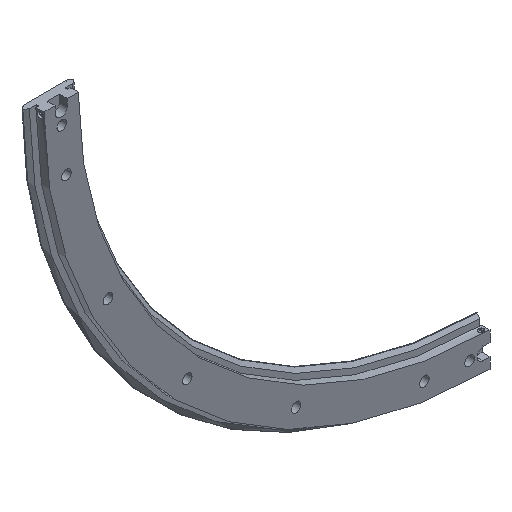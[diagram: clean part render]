
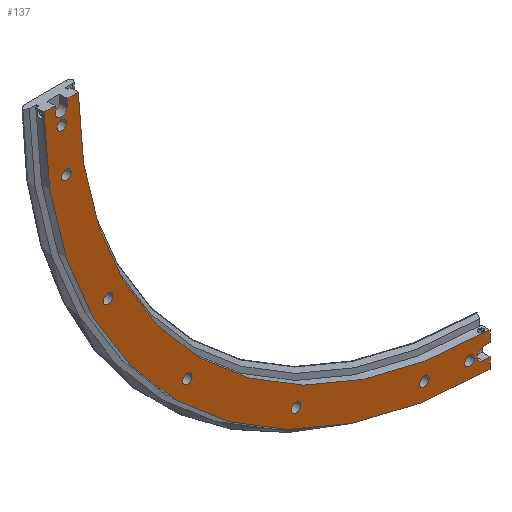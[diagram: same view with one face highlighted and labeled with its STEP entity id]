
A CAD part, isometric view. The second image highlights one B-rep face of the part: STEP entity #137.
In plain terms, the highlighted planar face has unit normal (0, -1, 0).
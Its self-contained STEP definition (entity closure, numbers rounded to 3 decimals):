
#137 = ADVANCED_FACE( '', ( #306, #307, #308, #309, #310, #311, #312, #313 ), #314, .T. );
#306 = FACE_BOUND( '', #519, .T. );
#307 = FACE_BOUND( '', #520, .T. );
#308 = FACE_BOUND( '', #521, .T. );
#309 = FACE_BOUND( '', #522, .T. );
#310 = FACE_BOUND( '', #523, .T. );
#311 = FACE_BOUND( '', #524, .T. );
#312 = FACE_BOUND( '', #525, .T. );
#313 = FACE_OUTER_BOUND( '', #526, .T. );
#314 = PLANE( '', #527 );
#519 = EDGE_LOOP( '', ( #1054 ) );
#520 = EDGE_LOOP( '', ( #1055 ) );
#521 = EDGE_LOOP( '', ( #1056 ) );
#522 = EDGE_LOOP( '', ( #1057 ) );
#523 = EDGE_LOOP( '', ( #1058 ) );
#524 = EDGE_LOOP( '', ( #1059 ) );
#525 = EDGE_LOOP( '', ( #1060 ) );
#526 = EDGE_LOOP( '', ( #1061, #1062, #1063, #1064, #1065, #1066, #1067, #1068, #1069, #1070, #1071, #1072 ) );
#527 = AXIS2_PLACEMENT_3D( '', #1073, #1074, #1075 );
#1054 = ORIENTED_EDGE( '', *, *, #1358, .F. );
#1055 = ORIENTED_EDGE( '', *, *, #1359, .F. );
#1056 = ORIENTED_EDGE( '', *, *, #1360, .F. );
#1057 = ORIENTED_EDGE( '', *, *, #1361, .F. );
#1058 = ORIENTED_EDGE( '', *, *, #1362, .F. );
#1059 = ORIENTED_EDGE( '', *, *, #1256, .F. );
#1060 = ORIENTED_EDGE( '', *, *, #1260, .F. );
#1061 = ORIENTED_EDGE( '', *, *, #1241, .T. );
#1062 = ORIENTED_EDGE( '', *, *, #1246, .T. );
#1063 = ORIENTED_EDGE( '', *, *, #1269, .T. );
#1064 = ORIENTED_EDGE( '', *, *, #1265, .T. );
#1065 = ORIENTED_EDGE( '', *, *, #1196, .T. );
#1066 = ORIENTED_EDGE( '', *, *, #1255, .T. );
#1067 = ORIENTED_EDGE( '', *, *, #1253, .T. );
#1068 = ORIENTED_EDGE( '', *, *, #1251, .T. );
#1069 = ORIENTED_EDGE( '', *, *, #1212, .T. );
#1070 = ORIENTED_EDGE( '', *, *, #1342, .F. );
#1071 = ORIENTED_EDGE( '', *, *, #1270, .T. );
#1072 = ORIENTED_EDGE( '', *, *, #1244, .T. );
#1073 = CARTESIAN_POINT( '', ( -608.25, 0., 0. ) );
#1074 = DIRECTION( '', ( 0., -1., 0. ) );
#1075 = DIRECTION( '', ( 0., 0., -1. ) );
#1196 = EDGE_CURVE( '', #1379, #1377, #1380, .T. );
#1212 = EDGE_CURVE( '', #1411, #1409, #1412, .T. );
#1241 = EDGE_CURVE( '', #1461, #1462, #1463, .T. );
#1244 = EDGE_CURVE( '', #1466, #1461, #1467, .T. );
#1246 = EDGE_CURVE( '', #1462, #1469, #1470, .T. );
#1251 = EDGE_CURVE( '', #1477, #1411, #1478, .T. );
#1253 = EDGE_CURVE( '', #1480, #1477, #1481, .T. );
#1255 = EDGE_CURVE( '', #1377, #1480, #1483, .T. );
#1256 = EDGE_CURVE( '', #1484, #1484, #1485, .T. );
#1260 = EDGE_CURVE( '', #1492, #1492, #1493, .T. );
#1265 = EDGE_CURVE( '', #1502, #1379, #1503, .T. );
#1269 = EDGE_CURVE( '', #1469, #1502, #1509, .T. );
#1270 = EDGE_CURVE( '', #1510, #1466, #1511, .T. );
#1342 = EDGE_CURVE( '', #1510, #1409, #1634, .T. );
#1358 = EDGE_CURVE( '', #1655, #1655, #1656, .T. );
#1359 = EDGE_CURVE( '', #1657, #1657, #1658, .T. );
#1360 = EDGE_CURVE( '', #1659, #1659, #1660, .T. );
#1361 = EDGE_CURVE( '', #1661, #1661, #1662, .T. );
#1362 = EDGE_CURVE( '', #1663, #1663, #1664, .T. );
#1377 = VERTEX_POINT( '', #1690 );
#1379 = VERTEX_POINT( '', #1693 );
#1380 = LINE( '', #1694, #1695 );
#1409 = VERTEX_POINT( '', #1762 );
#1411 = VERTEX_POINT( '', #1765 );
#1412 = LINE( '', #1766, #1767 );
#1461 = VERTEX_POINT( '', #1906 );
#1462 = VERTEX_POINT( '', #1907 );
#1463 = CIRCLE( '', #1908, 9. );
#1466 = VERTEX_POINT( '', #1913 );
#1467 = LINE( '', #1914, #1915 );
#1469 = VERTEX_POINT( '', #1918 );
#1470 = LINE( '', #1919, #1920 );
#1477 = VERTEX_POINT( '', #1930 );
#1478 = LINE( '', #1931, #1932 );
#1480 = VERTEX_POINT( '', #1935 );
#1481 = CIRCLE( '', #1936, 9. );
#1483 = LINE( '', #1939, #1940 );
#1484 = VERTEX_POINT( '', #1941 );
#1485 = CIRCLE( '', #1942, 7. );
#1492 = VERTEX_POINT( '', #1949 );
#1493 = CIRCLE( '', #1950, 7. );
#1502 = VERTEX_POINT( '', #2024 );
#1503 = CIRCLE( '', #2025, 658.75 );
#1509 = LINE( '', #2097, #2098 );
#1510 = VERTEX_POINT( '', #2099 );
#1511 = LINE( '', #2100, #2101 );
#1634 = CIRCLE( '', #2377, 608.25 );
#1655 = VERTEX_POINT( '', #2398 );
#1656 = CIRCLE( '', #2399, 7. );
#1657 = VERTEX_POINT( '', #2400 );
#1658 = CIRCLE( '', #2401, 7. );
#1659 = VERTEX_POINT( '', #2402 );
#1660 = CIRCLE( '', #2403, 7. );
#1661 = VERTEX_POINT( '', #2404 );
#1662 = CIRCLE( '', #2405, 7. );
#1663 = VERTEX_POINT( '', #2406 );
#1664 = CIRCLE( '', #2407, 7. );
#1690 = CARTESIAN_POINT( '', ( -2.5, 0., -642.5 ) );
#1693 = CARTESIAN_POINT( '', ( -2.5, 0., -658.745 ) );
#1694 = CARTESIAN_POINT( '', ( -2.5, 0., -671.87 ) );
#1695 = VECTOR( '', #2432, 1000. );
#1762 = CARTESIAN_POINT( '', ( -2.5, 0., -608.245 ) );
#1765 = CARTESIAN_POINT( '', ( -2.5, 0., -624.5 ) );
#1766 = CARTESIAN_POINT( '', ( -2.5, 0., -671.87 ) );
#1767 = VECTOR( '', #2442, 1000. );
#1906 = CARTESIAN_POINT( '', ( -624.5, 0., -12.5 ) );
#1907 = CARTESIAN_POINT( '', ( -642.5, 0., -12.5 ) );
#1908 = AXIS2_PLACEMENT_3D( '', #2477, #2478, #2479 );
#1913 = CARTESIAN_POINT( '', ( -624.5, 0., -2.5 ) );
#1914 = CARTESIAN_POINT( '', ( -624.5, 0., 0. ) );
#1915 = VECTOR( '', #2482, 1000. );
#1918 = CARTESIAN_POINT( '', ( -642.5, 0., -2.5 ) );
#1919 = CARTESIAN_POINT( '', ( -642.5, 0., -12.5 ) );
#1920 = VECTOR( '', #2484, 1000. );
#1930 = CARTESIAN_POINT( '', ( -12.5, 0., -624.5 ) );
#1931 = CARTESIAN_POINT( '', ( -12.5, 0., -624.5 ) );
#1932 = VECTOR( '', #2491, 1000. );
#1935 = CARTESIAN_POINT( '', ( -12.5, 0., -642.5 ) );
#1936 = AXIS2_PLACEMENT_3D( '', #2493, #2494, #2495 );
#1939 = CARTESIAN_POINT( '', ( 0., 0., -642.5 ) );
#1940 = VECTOR( '', #2497, 1000. );
#1941 = CARTESIAN_POINT( '', ( -625.701, 0., -106.101 ) );
#1942 = AXIS2_PLACEMENT_3D( '', #2498, #2499, #2500 );
#1949 = CARTESIAN_POINT( '', ( -99.101, 0., -632.701 ) );
#1950 = AXIS2_PLACEMENT_3D( '', #2510, #2511, #2512 );
#2024 = CARTESIAN_POINT( '', ( -658.745, 0., -2.5 ) );
#2025 = AXIS2_PLACEMENT_3D( '', #2522, #2523, #2524 );
#2097 = CARTESIAN_POINT( '', ( -2.5, 0., -2.5 ) );
#2098 = VECTOR( '', #2529, 1000. );
#2099 = CARTESIAN_POINT( '', ( -608.245, 0., -2.5 ) );
#2100 = CARTESIAN_POINT( '', ( -2.5, 0., -2.5 ) );
#2101 = VECTOR( '', #2530, 1000. );
#2377 = AXIS2_PLACEMENT_3D( '', #2604, #2605, #2606 );
#2398 = CARTESIAN_POINT( '', ( -632.666, 0., -39.492 ) );
#2399 = AXIS2_PLACEMENT_3D( '', #2652, #2653, #2654 );
#2400 = CARTESIAN_POINT( '', ( -32.492, 0., -639.666 ) );
#2401 = AXIS2_PLACEMENT_3D( '', #2655, #2656, #2657 );
#2402 = CARTESIAN_POINT( '', ( -564.453, 0., -294.603 ) );
#2403 = AXIS2_PLACEMENT_3D( '', #2658, #2659, #2660 );
#2404 = CARTESIAN_POINT( '', ( -447.952, 0., -454.952 ) );
#2405 = AXIS2_PLACEMENT_3D( '', #2661, #2662, #2663 );
#2406 = CARTESIAN_POINT( '', ( -287.603, 0., -571.453 ) );
#2407 = AXIS2_PLACEMENT_3D( '', #2664, #2665, #2666 );
#2432 = DIRECTION( '', ( 0., 0., 1. ) );
#2442 = DIRECTION( '', ( 0., 0., 1. ) );
#2477 = CARTESIAN_POINT( '', ( -633.5, 0., -12.5 ) );
#2478 = DIRECTION( '', ( 0., 1., 0. ) );
#2479 = DIRECTION( '', ( 1., 0., 0. ) );
#2482 = DIRECTION( '', ( 0., 0., -1. ) );
#2484 = DIRECTION( '', ( 0., 0., 1. ) );
#2491 = DIRECTION( '', ( 1., 0., 0. ) );
#2493 = CARTESIAN_POINT( '', ( -12.5, 0., -633.5 ) );
#2494 = DIRECTION( '', ( 0., 1., 0. ) );
#2495 = DIRECTION( '', ( 1., 0., 0. ) );
#2497 = DIRECTION( '', ( -1., 0., 0. ) );
#2498 = CARTESIAN_POINT( '', ( -625.701, 0., -99.101 ) );
#2499 = DIRECTION( '', ( 0., -1., 0. ) );
#2500 = DIRECTION( '', ( 0., 0., -1. ) );
#2510 = CARTESIAN_POINT( '', ( -99.101, 0., -625.701 ) );
#2511 = DIRECTION( '', ( 0., -1., 0. ) );
#2512 = DIRECTION( '', ( 0., 0., -1. ) );
#2522 = CARTESIAN_POINT( '', ( 0., 0., 0. ) );
#2523 = DIRECTION( '', ( 0., -1., 0. ) );
#2524 = DIRECTION( '', ( 0., 0., -1. ) );
#2529 = DIRECTION( '', ( -1., 0., 0. ) );
#2530 = DIRECTION( '', ( -1., 0., 0. ) );
#2604 = CARTESIAN_POINT( '', ( 0., 0., 0. ) );
#2605 = DIRECTION( '', ( 0., -1., 0. ) );
#2606 = DIRECTION( '', ( 0., 0., -1. ) );
#2652 = CARTESIAN_POINT( '', ( -632.666, 0., -32.492 ) );
#2653 = DIRECTION( '', ( 0., -1., 0. ) );
#2654 = DIRECTION( '', ( 0., 0., -1. ) );
#2655 = CARTESIAN_POINT( '', ( -32.492, 0., -632.666 ) );
#2656 = DIRECTION( '', ( 0., -1., 0. ) );
#2657 = DIRECTION( '', ( 0., 0., -1. ) );
#2658 = CARTESIAN_POINT( '', ( -564.453, 0., -287.603 ) );
#2659 = DIRECTION( '', ( 0., -1., 0. ) );
#2660 = DIRECTION( '', ( 0., 0., -1. ) );
#2661 = CARTESIAN_POINT( '', ( -447.952, 0., -447.952 ) );
#2662 = DIRECTION( '', ( 0., -1., 0. ) );
#2663 = DIRECTION( '', ( 0., 0., -1. ) );
#2664 = CARTESIAN_POINT( '', ( -287.603, 0., -564.453 ) );
#2665 = DIRECTION( '', ( 0., -1., 0. ) );
#2666 = DIRECTION( '', ( 0., 0., -1. ) );
